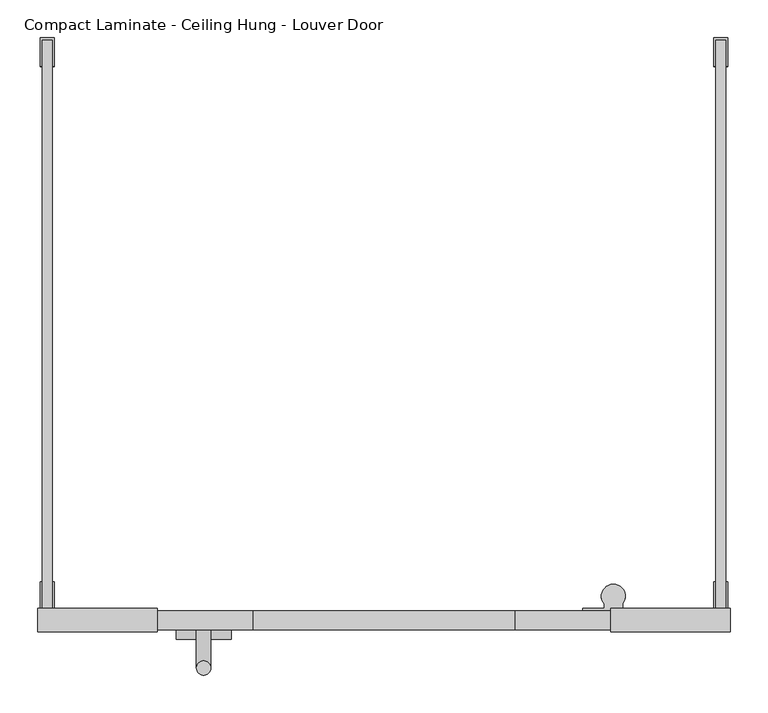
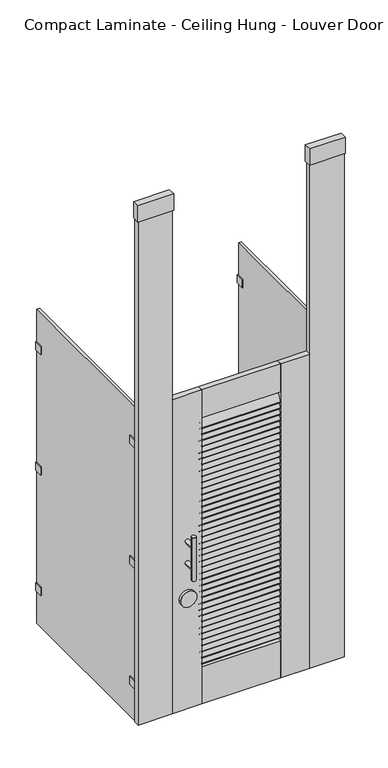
"""IFC4 building model written with IfcOpenShell, lengths in millimetres: proxy geometry, Toilet-Partition_Ironwood-Mfg_Compact-Laminate : Compact Laminate - Ceiling Hung - Louver Door."""

from ifc_helpers import new_model, si_unit, point, frame, frame_2d, origin, place, context, project, spatial, polyline, circle_curve, ellipse_curve, trimmed, segment, composite_curve, outline, extrude, source, transform, mapped, element, save
from ifc_brep_helpers import plane_surface, cylinder_surface, advanced_brep


def compact_laminate_ceiling_hung_louver_door_77dd7178(model_context):
    return source(origin(), model_context, "Body", "SolidModel", [
        extrude(outline(polyline([(542.925, -790.575), (542.925, -758.825), (701.675, -758.825), (701.675, -790.575), (542.925, -790.575)])), frame((0.0, 0.0, 2667.0), z_axis=(0.0, 0.0, 1.0), x_axis=(1.0, 0.0, 0.0)), (0.0, 0.0, 1.0), 76.1999999),
        extrude(outline(polyline([(0.0, 152.4), (25.4, 152.4), (25.4, 0.0), (0.0, 0.0), (0.0, 152.4)])), frame((546.1, -762.0, 304.8), z_axis=(1.181277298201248e-12, 0.0, 1.0), x_axis=(0.0, -1.0, 0.0)), (0.0, 0.0, 1.0), 2362.2),
        extrude(outline(polyline([(-60.325, -790.575), (-219.075, -790.575), (-219.075, -758.825), (-60.325, -758.825), (-60.325, -790.575)])), frame((0.0, 0.0, 2667.0), z_axis=(0.0, 0.0, 1.0), x_axis=(1.0, 0.0, 0.0)), (0.0, 0.0, 1.0), 76.1999999),
        extrude(outline(polyline([(0.0, -152.4), (0.0, 0.0), (25.4, 0.0), (25.4, -152.4), (0.0, -152.4)])), frame((-63.5, -762.0, 304.8), z_axis=(-1.1812772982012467e-12, 0.0, 1.0), x_axis=(0.0, -1.0, 0.0)), (0.0, 0.0, 1.0), 2362.2),
        extrude(outline(composite_curve([segment(polyline([(-762.7746396, 1604.8741298), (-780.7614889, 1567.9956236)]), True, "CONTINUOUS"), segment(trimmed(circle_curve(frame_2d((-783.61516, 1569.387452)), 3.175), [point((-780.7614889, 1567.9956236))], [point((-786.4688311, 1570.7792804))], False, "CARTESIAN"), True, "CONTINUOUS"), segment(polyline([(-786.4688311, 1570.7792804), (-768.4819818, 1607.6577866)]), True, "CONTINUOUS"), segment(trimmed(circle_curve(frame_2d((-765.6283107, 1606.2659582)), 3.175), [point((-768.4819818, 1607.6577866))], [point((-762.7746396, 1604.8741298))], False, "CARTESIAN"), True, "CONTINUOUS")], self_intersect=False)), frame((66.675, 0.0, 0.0), z_axis=(1.0, 0.0, 0.0), x_axis=(0.0, 1.0, 0.0)), (0.0, 0.0, 1.0), 349.25),
        extrude(outline(composite_curve([segment(polyline([(-762.7746396, 1576.5578755), (-780.7614889, 1539.6793692)]), True, "CONTINUOUS"), segment(trimmed(circle_curve(frame_2d((-783.61516, 1541.0711976)), 3.175), [point((-780.7614889, 1539.6793692))], [point((-786.4688311, 1542.463026))], False, "CARTESIAN"), True, "CONTINUOUS"), segment(polyline([(-786.4688311, 1542.463026), (-768.4819818, 1579.3415322)]), True, "CONTINUOUS"), segment(trimmed(circle_curve(frame_2d((-765.6283107, 1577.9497038)), 3.175), [point((-768.4819818, 1579.3415322))], [point((-762.7746396, 1576.5578755))], False, "CARTESIAN"), True, "CONTINUOUS")], self_intersect=False)), frame((66.675, 0.0, 0.0), z_axis=(1.0, 0.0, 0.0), x_axis=(0.0, 1.0, 0.0)), (0.0, 0.0, 1.0), 349.25),
        extrude(outline(composite_curve([segment(polyline([(-762.7746396, 1548.2416211), (-780.7614889, 1511.3631149)]), True, "CONTINUOUS"), segment(trimmed(circle_curve(frame_2d((-783.61516, 1512.7549433)), 3.175), [point((-780.7614889, 1511.3631149))], [point((-786.4688311, 1514.1467716))], False, "CARTESIAN"), True, "CONTINUOUS"), segment(polyline([(-786.4688311, 1514.1467716), (-768.4819818, 1551.0252779)]), True, "CONTINUOUS"), segment(trimmed(circle_curve(frame_2d((-765.6283107, 1549.6334495)), 3.175), [point((-768.4819818, 1551.0252779))], [point((-762.7746396, 1548.2416211))], False, "CARTESIAN"), True, "CONTINUOUS")], self_intersect=False)), frame((66.675, 0.0, 0.0), z_axis=(1.0, 0.0, 0.0), x_axis=(0.0, 1.0, 0.0)), (0.0, 0.0, 1.0), 349.25),
        extrude(outline(composite_curve([segment(polyline([(-762.7746396, 1519.9253667), (-780.7614889, 1483.0468605)]), True, "CONTINUOUS"), segment(trimmed(circle_curve(frame_2d((-783.61516, 1484.4386889)), 3.175), [point((-780.7614889, 1483.0468605))], [point((-786.4688311, 1485.8305173))], False, "CARTESIAN"), True, "CONTINUOUS"), segment(polyline([(-786.4688311, 1485.8305173), (-768.4819818, 1522.7090235)]), True, "CONTINUOUS"), segment(trimmed(circle_curve(frame_2d((-765.6283107, 1521.3171951)), 3.175), [point((-768.4819818, 1522.7090235))], [point((-762.7746396, 1519.9253667))], False, "CARTESIAN"), True, "CONTINUOUS")], self_intersect=False)), frame((66.675, 0.0, 0.0), z_axis=(1.0, 0.0, 0.0), x_axis=(0.0, 1.0, 0.0)), (0.0, 0.0, 1.0), 349.25),
        extrude(outline(composite_curve([segment(polyline([(-762.7746396, 1491.6091124), (-780.7614889, 1454.7306061)]), True, "CONTINUOUS"), segment(trimmed(circle_curve(frame_2d((-783.61516, 1456.1224345)), 3.175), [point((-780.7614889, 1454.7306061))], [point((-786.4688311, 1457.5142629))], False, "CARTESIAN"), True, "CONTINUOUS"), segment(polyline([(-786.4688311, 1457.5142629), (-768.4819818, 1494.3927691)]), True, "CONTINUOUS"), segment(trimmed(circle_curve(frame_2d((-765.6283107, 1493.0009408)), 3.175), [point((-768.4819818, 1494.3927691))], [point((-762.7746396, 1491.6091124))], False, "CARTESIAN"), True, "CONTINUOUS")], self_intersect=False)), frame((66.675, 0.0, 0.0), z_axis=(1.0, 0.0, 0.0), x_axis=(0.0, 1.0, 0.0)), (0.0, 0.0, 1.0), 349.25),
        extrude(outline(composite_curve([segment(polyline([(-762.7746396, 1463.292858), (-780.7614889, 1426.4143518)]), True, "CONTINUOUS"), segment(trimmed(circle_curve(frame_2d((-783.61516, 1427.8061802)), 3.175), [point((-780.7614889, 1426.4143518))], [point((-786.4688311, 1429.1980085))], False, "CARTESIAN"), True, "CONTINUOUS"), segment(polyline([(-786.4688311, 1429.1980085), (-768.4819818, 1466.0765148)]), True, "CONTINUOUS"), segment(trimmed(circle_curve(frame_2d((-765.6283107, 1464.6846864)), 3.175), [point((-768.4819818, 1466.0765148))], [point((-762.7746396, 1463.292858))], False, "CARTESIAN"), True, "CONTINUOUS")], self_intersect=False)), frame((66.675, 0.0, 0.0), z_axis=(1.0, 0.0, 0.0), x_axis=(0.0, 1.0, 0.0)), (0.0, 0.0, 1.0), 349.25),
        extrude(outline(composite_curve([segment(polyline([(-762.7746396, 1434.9766036), (-780.7614889, 1398.0980974)]), True, "CONTINUOUS"), segment(trimmed(circle_curve(frame_2d((-783.61516, 1399.4899258)), 3.175), [point((-780.7614889, 1398.0980974))], [point((-786.4688311, 1400.8817542))], False, "CARTESIAN"), True, "CONTINUOUS"), segment(polyline([(-786.4688311, 1400.8817542), (-768.4819818, 1437.7602604)]), True, "CONTINUOUS"), segment(trimmed(circle_curve(frame_2d((-765.6283107, 1436.368432)), 3.175), [point((-768.4819818, 1437.7602604))], [point((-762.7746396, 1434.9766036))], False, "CARTESIAN"), True, "CONTINUOUS")], self_intersect=False)), frame((66.675, 0.0, 0.0), z_axis=(1.0, 0.0, 0.0), x_axis=(0.0, 1.0, 0.0)), (0.0, 0.0, 1.0), 349.25),
        extrude(outline(composite_curve([segment(polyline([(-762.7746396, 1406.6603493), (-780.7614889, 1369.781843)]), True, "CONTINUOUS"), segment(trimmed(circle_curve(frame_2d((-783.61516, 1371.1736714)), 3.175), [point((-780.7614889, 1369.781843))], [point((-786.4688311, 1372.5654998))], False, "CARTESIAN"), True, "CONTINUOUS"), segment(polyline([(-786.4688311, 1372.5654998), (-768.4819818, 1409.444006)]), True, "CONTINUOUS"), segment(trimmed(circle_curve(frame_2d((-765.6283107, 1408.0521777)), 3.175), [point((-768.4819818, 1409.444006))], [point((-762.7746396, 1406.6603493))], False, "CARTESIAN"), True, "CONTINUOUS")], self_intersect=False)), frame((66.675, 0.0, 0.0), z_axis=(1.0, 0.0, 0.0), x_axis=(0.0, 1.0, 0.0)), (0.0, 0.0, 1.0), 349.25),
        extrude(outline(composite_curve([segment(polyline([(-762.7746396, 1378.3440949), (-780.7614889, 1341.4655887)]), True, "CONTINUOUS"), segment(trimmed(circle_curve(frame_2d((-783.61516, 1342.8574171)), 3.175), [point((-780.7614889, 1341.4655887))], [point((-786.4688311, 1344.2492455))], False, "CARTESIAN"), True, "CONTINUOUS"), segment(polyline([(-786.4688311, 1344.2492455), (-768.4819818, 1381.1277517)]), True, "CONTINUOUS"), segment(trimmed(circle_curve(frame_2d((-765.6283107, 1379.7359233)), 3.175), [point((-768.4819818, 1381.1277517))], [point((-762.7746396, 1378.3440949))], False, "CARTESIAN"), True, "CONTINUOUS")], self_intersect=False)), frame((66.675, 0.0, 0.0), z_axis=(1.0, 0.0, 0.0), x_axis=(0.0, 1.0, 0.0)), (0.0, 0.0, 1.0), 349.25),
        extrude(outline(composite_curve([segment(polyline([(-762.7746396, 1350.0278405), (-780.7614889, 1313.1493343)]), True, "CONTINUOUS"), segment(trimmed(circle_curve(frame_2d((-783.61516, 1314.5411627)), 3.175), [point((-780.7614889, 1313.1493343))], [point((-786.4688311, 1315.9329911))], False, "CARTESIAN"), True, "CONTINUOUS"), segment(polyline([(-786.4688311, 1315.9329911), (-768.4819818, 1352.8114973)]), True, "CONTINUOUS"), segment(trimmed(circle_curve(frame_2d((-765.6283107, 1351.4196689)), 3.175), [point((-768.4819818, 1352.8114973))], [point((-762.7746396, 1350.0278405))], False, "CARTESIAN"), True, "CONTINUOUS")], self_intersect=False)), frame((66.675, 0.0, 0.0), z_axis=(1.0, 0.0, 0.0), x_axis=(0.0, 1.0, 0.0)), (0.0, 0.0, 1.0), 349.25),
        extrude(outline(composite_curve([segment(polyline([(-762.7746396, 1321.7115862), (-780.7614889, 1284.8330799)]), True, "CONTINUOUS"), segment(trimmed(circle_curve(frame_2d((-783.61516, 1286.2249083)), 3.175), [point((-780.7614889, 1284.8330799))], [point((-786.4688311, 1287.6167367))], False, "CARTESIAN"), True, "CONTINUOUS"), segment(polyline([(-786.4688311, 1287.6167367), (-768.4819818, 1324.4952429)]), True, "CONTINUOUS"), segment(trimmed(circle_curve(frame_2d((-765.6283107, 1323.1034146)), 3.175), [point((-768.4819818, 1324.4952429))], [point((-762.7746396, 1321.7115862))], False, "CARTESIAN"), True, "CONTINUOUS")], self_intersect=False)), frame((66.675, 0.0, 0.0), z_axis=(1.0, 0.0, 0.0), x_axis=(0.0, 1.0, 0.0)), (0.0, 0.0, 1.0), 349.25),
        extrude(outline(composite_curve([segment(polyline([(-762.7746396, 1293.3953318), (-780.7614889, 1256.5168256)]), True, "CONTINUOUS"), segment(trimmed(circle_curve(frame_2d((-783.61516, 1257.908654)), 3.175), [point((-780.7614889, 1256.5168256))], [point((-786.4688311, 1259.3004824))], False, "CARTESIAN"), True, "CONTINUOUS"), segment(polyline([(-786.4688311, 1259.3004824), (-768.4819818, 1296.1789886)]), True, "CONTINUOUS"), segment(trimmed(circle_curve(frame_2d((-765.6283107, 1294.7871602)), 3.175), [point((-768.4819818, 1296.1789886))], [point((-762.7746396, 1293.3953318))], False, "CARTESIAN"), True, "CONTINUOUS")], self_intersect=False)), frame((66.675, 0.0, 0.0), z_axis=(1.0, 0.0, 0.0), x_axis=(0.0, 1.0, 0.0)), (0.0, 0.0, 1.0), 349.25),
        extrude(outline(composite_curve([segment(polyline([(-762.7746396, 1265.0790774), (-780.7614889, 1228.2005712)]), True, "CONTINUOUS"), segment(trimmed(circle_curve(frame_2d((-783.61516, 1229.5923996)), 3.175), [point((-780.7614889, 1228.2005712))], [point((-786.4688311, 1230.984228))], False, "CARTESIAN"), True, "CONTINUOUS"), segment(polyline([(-786.4688311, 1230.984228), (-768.4819818, 1267.8627342)]), True, "CONTINUOUS"), segment(trimmed(circle_curve(frame_2d((-765.6283107, 1266.4709058)), 3.175), [point((-768.4819818, 1267.8627342))], [point((-762.7746396, 1265.0790774))], False, "CARTESIAN"), True, "CONTINUOUS")], self_intersect=False)), frame((66.675, 0.0, 0.0), z_axis=(1.0, 0.0, 0.0), x_axis=(0.0, 1.0, 0.0)), (0.0, 0.0, 1.0), 349.25),
        extrude(outline(composite_curve([segment(polyline([(-762.7746396, 1236.7628231), (-780.7614889, 1199.8843168)]), True, "CONTINUOUS"), segment(trimmed(circle_curve(frame_2d((-783.61516, 1201.2761452)), 3.175), [point((-780.7614889, 1199.8843168))], [point((-786.4688311, 1202.6679736))], False, "CARTESIAN"), True, "CONTINUOUS"), segment(polyline([(-786.4688311, 1202.6679736), (-768.4819818, 1239.5464799)]), True, "CONTINUOUS"), segment(trimmed(circle_curve(frame_2d((-765.6283107, 1238.1546515)), 3.175), [point((-768.4819818, 1239.5464799))], [point((-762.7746396, 1236.7628231))], False, "CARTESIAN"), True, "CONTINUOUS")], self_intersect=False)), frame((66.675, 0.0, 0.0), z_axis=(1.0, 0.0, 0.0), x_axis=(0.0, 1.0, 0.0)), (0.0, 0.0, 1.0), 349.25),
        extrude(outline(composite_curve([segment(polyline([(-762.7746396, 1208.4465687), (-780.7614889, 1171.5680625)]), True, "CONTINUOUS"), segment(trimmed(circle_curve(frame_2d((-783.61516, 1172.9598909)), 3.175), [point((-780.7614889, 1171.5680625))], [point((-786.4688311, 1174.3517193))], False, "CARTESIAN"), True, "CONTINUOUS"), segment(polyline([(-786.4688311, 1174.3517193), (-768.4819818, 1211.2302255)]), True, "CONTINUOUS"), segment(trimmed(circle_curve(frame_2d((-765.6283107, 1209.8383971)), 3.175), [point((-768.4819818, 1211.2302255))], [point((-762.7746396, 1208.4465687))], False, "CARTESIAN"), True, "CONTINUOUS")], self_intersect=False)), frame((66.675, 0.0, 0.0), z_axis=(1.0, 0.0, 0.0), x_axis=(0.0, 1.0, 0.0)), (0.0, 0.0, 1.0), 349.25),
        extrude(outline(composite_curve([segment(polyline([(-762.7746396, 1180.1303143), (-780.7614889, 1143.2518081)]), True, "CONTINUOUS"), segment(trimmed(circle_curve(frame_2d((-783.61516, 1144.6436365)), 3.175), [point((-780.7614889, 1143.2518081))], [point((-786.4688311, 1146.0354649))], False, "CARTESIAN"), True, "CONTINUOUS"), segment(polyline([(-786.4688311, 1146.0354649), (-768.4819818, 1182.9139711)]), True, "CONTINUOUS"), segment(trimmed(circle_curve(frame_2d((-765.6283107, 1181.5221427)), 3.175), [point((-768.4819818, 1182.9139711))], [point((-762.7746396, 1180.1303143))], False, "CARTESIAN"), True, "CONTINUOUS")], self_intersect=False)), frame((66.675, 0.0, 0.0), z_axis=(1.0, 0.0, 0.0), x_axis=(0.0, 1.0, 0.0)), (0.0, 0.0, 1.0), 349.25),
        extrude(outline(composite_curve([segment(polyline([(-762.7746396, 1151.81406), (-780.7614889, 1114.9355537)]), True, "CONTINUOUS"), segment(trimmed(circle_curve(frame_2d((-783.61516, 1116.3273821)), 3.175), [point((-780.7614889, 1114.9355537))], [point((-786.4688311, 1117.7192105))], False, "CARTESIAN"), True, "CONTINUOUS"), segment(polyline([(-786.4688311, 1117.7192105), (-768.4819818, 1154.5977168)]), True, "CONTINUOUS"), segment(trimmed(circle_curve(frame_2d((-765.6283107, 1153.2058884)), 3.175), [point((-768.4819818, 1154.5977168))], [point((-762.7746396, 1151.81406))], False, "CARTESIAN"), True, "CONTINUOUS")], self_intersect=False)), frame((66.675, 0.0, 0.0), z_axis=(1.0, 0.0, 0.0), x_axis=(0.0, 1.0, 0.0)), (0.0, 0.0, 1.0), 349.25),
        extrude(outline(composite_curve([segment(polyline([(-762.7746396, 1123.4978056), (-780.7614889, 1086.6192994)]), True, "CONTINUOUS"), segment(trimmed(circle_curve(frame_2d((-783.61516, 1088.0111278)), 3.175), [point((-780.7614889, 1086.6192994))], [point((-786.4688311, 1089.4029562))], False, "CARTESIAN"), True, "CONTINUOUS"), segment(polyline([(-786.4688311, 1089.4029562), (-768.4819818, 1126.2814624)]), True, "CONTINUOUS"), segment(trimmed(circle_curve(frame_2d((-765.6283107, 1124.889634)), 3.175), [point((-768.4819818, 1126.2814624))], [point((-762.7746396, 1123.4978056))], False, "CARTESIAN"), True, "CONTINUOUS")], self_intersect=False)), frame((66.675, 0.0, 0.0), z_axis=(1.0, 0.0, 0.0), x_axis=(0.0, 1.0, 0.0)), (0.0, 0.0, 1.0), 349.25),
        extrude(outline(composite_curve([segment(polyline([(-762.7746396, 1095.1815512), (-780.7614889, 1058.303045)]), True, "CONTINUOUS"), segment(trimmed(circle_curve(frame_2d((-783.61516, 1059.6948734)), 3.175), [point((-780.7614889, 1058.303045))], [point((-786.4688311, 1061.0867018))], False, "CARTESIAN"), True, "CONTINUOUS"), segment(polyline([(-786.4688311, 1061.0867018), (-768.4819818, 1097.965208)]), True, "CONTINUOUS"), segment(trimmed(circle_curve(frame_2d((-765.6283107, 1096.5733796)), 3.175), [point((-768.4819818, 1097.965208))], [point((-762.7746396, 1095.1815512))], False, "CARTESIAN"), True, "CONTINUOUS")], self_intersect=False)), frame((66.675, 0.0, 0.0), z_axis=(1.0, 0.0, 0.0), x_axis=(0.0, 1.0, 0.0)), (0.0, 0.0, 1.0), 349.25),
        extrude(outline(composite_curve([segment(polyline([(-762.7746396, 1066.8652969), (-780.7614889, 1029.9867907)]), True, "CONTINUOUS"), segment(trimmed(circle_curve(frame_2d((-783.61516, 1031.378619)), 3.175), [point((-780.7614889, 1029.9867907))], [point((-786.4688311, 1032.7704474))], False, "CARTESIAN"), True, "CONTINUOUS"), segment(polyline([(-786.4688311, 1032.7704474), (-768.4819818, 1069.6489537)]), True, "CONTINUOUS"), segment(trimmed(circle_curve(frame_2d((-765.6283107, 1068.2571253)), 3.175), [point((-768.4819818, 1069.6489537))], [point((-762.7746396, 1066.8652969))], False, "CARTESIAN"), True, "CONTINUOUS")], self_intersect=False)), frame((66.675, 0.0, 0.0), z_axis=(1.0, 0.0, 0.0), x_axis=(0.0, 1.0, 0.0)), (0.0, 0.0, 1.0), 349.25),
        extrude(outline(composite_curve([segment(polyline([(-762.7746396, 1038.5490425), (-780.7614889, 1001.6705363)]), True, "CONTINUOUS"), segment(trimmed(circle_curve(frame_2d((-783.61516, 1003.0623647)), 3.175), [point((-780.7614889, 1001.6705363))], [point((-786.4688311, 1004.4541931))], False, "CARTESIAN"), True, "CONTINUOUS"), segment(polyline([(-786.4688311, 1004.4541931), (-768.4819818, 1041.3326993)]), True, "CONTINUOUS"), segment(trimmed(circle_curve(frame_2d((-765.6283107, 1039.9408709)), 3.175), [point((-768.4819818, 1041.3326993))], [point((-762.7746396, 1038.5490425))], False, "CARTESIAN"), True, "CONTINUOUS")], self_intersect=False)), frame((66.675, 0.0, 0.0), z_axis=(1.0, 0.0, 0.0), x_axis=(0.0, 1.0, 0.0)), (0.0, 0.0, 1.0), 349.25),
        extrude(outline(composite_curve([segment(polyline([(-762.7746396, 1010.2327881), (-780.7614889, 973.3542819)]), True, "CONTINUOUS"), segment(trimmed(circle_curve(frame_2d((-783.61516, 974.7461103)), 3.175), [point((-780.7614889, 973.3542819))], [point((-786.4688311, 976.1379387))], False, "CARTESIAN"), True, "CONTINUOUS"), segment(polyline([(-786.4688311, 976.1379387), (-768.4819818, 1013.0164449)]), True, "CONTINUOUS"), segment(trimmed(circle_curve(frame_2d((-765.6283107, 1011.6246165)), 3.175), [point((-768.4819818, 1013.0164449))], [point((-762.7746396, 1010.2327881))], False, "CARTESIAN"), True, "CONTINUOUS")], self_intersect=False)), frame((66.675, 0.0, 0.0), z_axis=(1.0, 0.0, 0.0), x_axis=(0.0, 1.0, 0.0)), (0.0, 0.0, 1.0), 349.25),
        extrude(outline(composite_curve([segment(polyline([(-762.7746396, 981.9165338), (-780.7614889, 945.0380276)]), True, "CONTINUOUS"), segment(trimmed(circle_curve(frame_2d((-783.61516, 946.4298559)), 3.175), [point((-780.7614889, 945.0380276))], [point((-786.4688311, 947.8216843))], False, "CARTESIAN"), True, "CONTINUOUS"), segment(polyline([(-786.4688311, 947.8216843), (-768.4819818, 984.7001906)]), True, "CONTINUOUS"), segment(trimmed(circle_curve(frame_2d((-765.6283107, 983.3083622)), 3.175), [point((-768.4819818, 984.7001906))], [point((-762.7746396, 981.9165338))], False, "CARTESIAN"), True, "CONTINUOUS")], self_intersect=False)), frame((66.675, 0.0, 0.0), z_axis=(1.0, 0.0, 0.0), x_axis=(0.0, 1.0, 0.0)), (0.0, 0.0, 1.0), 349.25),
        extrude(outline(composite_curve([segment(polyline([(-762.7746396, 953.6002794), (-780.7614889, 916.7217732)]), True, "CONTINUOUS"), segment(trimmed(circle_curve(frame_2d((-783.61516, 918.1136016)), 3.175), [point((-780.7614889, 916.7217732))], [point((-786.4688311, 919.50543))], False, "CARTESIAN"), True, "CONTINUOUS"), segment(polyline([(-786.4688311, 919.50543), (-768.4819818, 956.3839362)]), True, "CONTINUOUS"), segment(trimmed(circle_curve(frame_2d((-765.6283107, 954.9921078)), 3.175), [point((-768.4819818, 956.3839362))], [point((-762.7746396, 953.6002794))], False, "CARTESIAN"), True, "CONTINUOUS")], self_intersect=False)), frame((66.675, 0.0, 0.0), z_axis=(1.0, 0.0, 0.0), x_axis=(0.0, 1.0, 0.0)), (0.0, 0.0, 1.0), 349.25),
        extrude(outline(composite_curve([segment(polyline([(-762.7746396, 925.284025), (-780.7614889, 888.4055188)]), True, "CONTINUOUS"), segment(trimmed(circle_curve(frame_2d((-783.61516, 889.7973472)), 3.175), [point((-780.7614889, 888.4055188))], [point((-786.4688311, 891.1891756))], False, "CARTESIAN"), True, "CONTINUOUS"), segment(polyline([(-786.4688311, 891.1891756), (-768.4819818, 928.0676818)]), True, "CONTINUOUS"), segment(trimmed(circle_curve(frame_2d((-765.6283107, 926.6758534)), 3.175), [point((-768.4819818, 928.0676818))], [point((-762.7746396, 925.284025))], False, "CARTESIAN"), True, "CONTINUOUS")], self_intersect=False)), frame((66.675, 0.0, 0.0), z_axis=(1.0, 0.0, 0.0), x_axis=(0.0, 1.0, 0.0)), (0.0, 0.0, 1.0), 349.25),
        extrude(outline(composite_curve([segment(polyline([(-762.7746396, 896.9677707), (-780.7614889, 860.0892645)]), True, "CONTINUOUS"), segment(trimmed(circle_curve(frame_2d((-783.61516, 861.4810928)), 3.175), [point((-780.7614889, 860.0892645))], [point((-786.4688311, 862.8729212))], False, "CARTESIAN"), True, "CONTINUOUS"), segment(polyline([(-786.4688311, 862.8729212), (-768.4819818, 899.7514275)]), True, "CONTINUOUS"), segment(trimmed(circle_curve(frame_2d((-765.6283107, 898.3595991)), 3.175), [point((-768.4819818, 899.7514275))], [point((-762.7746396, 896.9677707))], False, "CARTESIAN"), True, "CONTINUOUS")], self_intersect=False)), frame((66.675, 0.0, 0.0), z_axis=(1.0, 0.0, 0.0), x_axis=(0.0, 1.0, 0.0)), (0.0, 0.0, 1.0), 349.25),
        extrude(outline(composite_curve([segment(polyline([(-762.7746396, 868.6515163), (-780.7614889, 831.7730101)]), True, "CONTINUOUS"), segment(trimmed(circle_curve(frame_2d((-783.61516, 833.1648385)), 3.175), [point((-780.7614889, 831.7730101))], [point((-786.4688311, 834.5566669))], False, "CARTESIAN"), True, "CONTINUOUS"), segment(polyline([(-786.4688311, 834.5566669), (-768.4819818, 871.4351731)]), True, "CONTINUOUS"), segment(trimmed(circle_curve(frame_2d((-765.6283107, 870.0433447)), 3.175), [point((-768.4819818, 871.4351731))], [point((-762.7746396, 868.6515163))], False, "CARTESIAN"), True, "CONTINUOUS")], self_intersect=False)), frame((66.675, 0.0, 0.0), z_axis=(1.0, 0.0, 0.0), x_axis=(0.0, 1.0, 0.0)), (0.0, 0.0, 1.0), 349.25),
        extrude(outline(composite_curve([segment(polyline([(-762.7746396, 840.335262), (-780.7614889, 803.4567557)]), True, "CONTINUOUS"), segment(trimmed(circle_curve(frame_2d((-783.61516, 804.8485841)), 3.175), [point((-780.7614889, 803.4567557))], [point((-786.4688311, 806.2404125))], False, "CARTESIAN"), True, "CONTINUOUS"), segment(polyline([(-786.4688311, 806.2404125), (-768.4819818, 843.1189187)]), True, "CONTINUOUS"), segment(trimmed(circle_curve(frame_2d((-765.6283107, 841.7270903)), 3.175), [point((-768.4819818, 843.1189187))], [point((-762.7746396, 840.335262))], False, "CARTESIAN"), True, "CONTINUOUS")], self_intersect=False)), frame((66.675, 0.0, 0.0), z_axis=(1.0, 0.0, 0.0), x_axis=(0.0, 1.0, 0.0)), (0.0, 0.0, 1.0), 349.25),
        extrude(outline(composite_curve([segment(polyline([(-762.7746396, 812.0190076), (-780.7614889, 775.1405014)]), True, "CONTINUOUS"), segment(trimmed(circle_curve(frame_2d((-783.61516, 776.5323298)), 3.175), [point((-780.7614889, 775.1405014))], [point((-786.4688311, 777.9241581))], False, "CARTESIAN"), True, "CONTINUOUS"), segment(polyline([(-786.4688311, 777.9241581), (-768.4819818, 814.8026644)]), True, "CONTINUOUS"), segment(trimmed(circle_curve(frame_2d((-765.6283107, 813.410836)), 3.175), [point((-768.4819818, 814.8026644))], [point((-762.7746396, 812.0190076))], False, "CARTESIAN"), True, "CONTINUOUS")], self_intersect=False)), frame((66.675, 0.0, 0.0), z_axis=(1.0, 0.0, 0.0), x_axis=(0.0, 1.0, 0.0)), (0.0, 0.0, 1.0), 349.25),
        extrude(outline(composite_curve([segment(polyline([(-762.7746396, 783.7027532), (-780.7614889, 746.824247)]), True, "CONTINUOUS"), segment(trimmed(circle_curve(frame_2d((-783.61516, 748.2160754)), 3.175), [point((-780.7614889, 746.824247))], [point((-786.4688311, 749.6079038))], False, "CARTESIAN"), True, "CONTINUOUS"), segment(polyline([(-786.4688311, 749.6079038), (-768.4819818, 786.48641)]), True, "CONTINUOUS"), segment(trimmed(circle_curve(frame_2d((-765.6283107, 785.0945816)), 3.175), [point((-768.4819818, 786.48641))], [point((-762.7746396, 783.7027532))], False, "CARTESIAN"), True, "CONTINUOUS")], self_intersect=False)), frame((66.675, 0.0, 0.0), z_axis=(1.0, 0.0, 0.0), x_axis=(0.0, 1.0, 0.0)), (0.0, 0.0, 1.0), 349.25),
        extrude(outline(composite_curve([segment(polyline([(-762.7746396, 755.3864989), (-780.7614889, 718.5079926)]), True, "CONTINUOUS"), segment(trimmed(circle_curve(frame_2d((-783.61516, 719.899821)), 3.175), [point((-780.7614889, 718.5079926))], [point((-786.4688311, 721.2916494))], False, "CARTESIAN"), True, "CONTINUOUS"), segment(polyline([(-786.4688311, 721.2916494), (-768.4819818, 758.1701556)]), True, "CONTINUOUS"), segment(trimmed(circle_curve(frame_2d((-765.6283107, 756.7783272)), 3.175), [point((-768.4819818, 758.1701556))], [point((-762.7746396, 755.3864989))], False, "CARTESIAN"), True, "CONTINUOUS")], self_intersect=False)), frame((66.675, 0.0, 0.0), z_axis=(1.0, 0.0, 0.0), x_axis=(0.0, 1.0, 0.0)), (0.0, 0.0, 1.0), 349.25),
        extrude(outline(composite_curve([segment(polyline([(-762.7746396, 727.0702445), (-780.7614889, 690.1917383)]), True, "CONTINUOUS"), segment(trimmed(circle_curve(frame_2d((-783.61516, 691.5835667)), 3.175), [point((-780.7614889, 690.1917383))], [point((-786.4688311, 692.975395))], False, "CARTESIAN"), True, "CONTINUOUS"), segment(polyline([(-786.4688311, 692.975395), (-768.4819818, 729.8539013)]), True, "CONTINUOUS"), segment(trimmed(circle_curve(frame_2d((-765.6283107, 728.4620729)), 3.175), [point((-768.4819818, 729.8539013))], [point((-762.7746396, 727.0702445))], False, "CARTESIAN"), True, "CONTINUOUS")], self_intersect=False)), frame((66.675, 0.0, 0.0), z_axis=(1.0, 0.0, 0.0), x_axis=(0.0, 1.0, 0.0)), (0.0, 0.0, 1.0), 349.25),
        extrude(outline(composite_curve([segment(polyline([(-762.7746396, 698.7539901), (-780.7614889, 661.8754839)]), True, "CONTINUOUS"), segment(trimmed(circle_curve(frame_2d((-783.61516, 663.2673123)), 3.175), [point((-780.7614889, 661.8754839))], [point((-786.4688311, 664.6591407))], False, "CARTESIAN"), True, "CONTINUOUS"), segment(polyline([(-786.4688311, 664.6591407), (-768.4819818, 701.5376469)]), True, "CONTINUOUS"), segment(trimmed(circle_curve(frame_2d((-765.6283107, 700.1458185)), 3.175), [point((-768.4819818, 701.5376469))], [point((-762.7746396, 698.7539901))], False, "CARTESIAN"), True, "CONTINUOUS")], self_intersect=False)), frame((66.675, 0.0, 0.0), z_axis=(1.0, 0.0, 0.0), x_axis=(0.0, 1.0, 0.0)), (0.0, 0.0, 1.0), 349.25),
        extrude(outline(composite_curve([segment(polyline([(-762.7746396, 670.4377358), (-780.7614889, 633.5592295)]), True, "CONTINUOUS"), segment(trimmed(circle_curve(frame_2d((-783.61516, 634.9510579)), 3.175), [point((-780.7614889, 633.5592295))], [point((-786.4688311, 636.3428863))], False, "CARTESIAN"), True, "CONTINUOUS"), segment(polyline([(-786.4688311, 636.3428863), (-768.4819818, 673.2213925)]), True, "CONTINUOUS"), segment(trimmed(circle_curve(frame_2d((-765.6283107, 671.8295642)), 3.175), [point((-768.4819818, 673.2213925))], [point((-762.7746396, 670.4377358))], False, "CARTESIAN"), True, "CONTINUOUS")], self_intersect=False)), frame((66.675, 0.0, 0.0), z_axis=(1.0, 0.0, 0.0), x_axis=(0.0, 1.0, 0.0)), (0.0, 0.0, 1.0), 349.25),
        extrude(outline(composite_curve([segment(polyline([(-762.7746396, 642.1214814), (-780.7614889, 605.2429752)]), True, "CONTINUOUS"), segment(trimmed(circle_curve(frame_2d((-783.61516, 606.6348036)), 3.175), [point((-780.7614889, 605.2429752))], [point((-786.4688311, 608.026632))], False, "CARTESIAN"), True, "CONTINUOUS"), segment(polyline([(-786.4688311, 608.026632), (-768.4819818, 644.9051382)]), True, "CONTINUOUS"), segment(trimmed(circle_curve(frame_2d((-765.6283107, 643.5133098)), 3.175), [point((-768.4819818, 644.9051382))], [point((-762.7746396, 642.1214814))], False, "CARTESIAN"), True, "CONTINUOUS")], self_intersect=False)), frame((66.675, 0.0, 0.0), z_axis=(1.0, 0.0, 0.0), x_axis=(0.0, 1.0, 0.0)), (0.0, 0.0, 1.0), 349.25),
        extrude(outline(composite_curve([segment(polyline([(-762.7746396, 613.805227), (-780.7614889, 576.9267208)]), True, "CONTINUOUS"), segment(trimmed(circle_curve(frame_2d((-783.61516, 578.3185492)), 3.175), [point((-780.7614889, 576.9267208))], [point((-786.4688311, 579.7103776))], False, "CARTESIAN"), True, "CONTINUOUS"), segment(polyline([(-786.4688311, 579.7103776), (-768.4819818, 616.5888838)]), True, "CONTINUOUS"), segment(trimmed(circle_curve(frame_2d((-765.6283107, 615.1970554)), 3.175), [point((-768.4819818, 616.5888838))], [point((-762.7746396, 613.805227))], False, "CARTESIAN"), True, "CONTINUOUS")], self_intersect=False)), frame((66.675, 0.0, 0.0), z_axis=(1.0, 0.0, 0.0), x_axis=(0.0, 1.0, 0.0)), (0.0, 0.0, 1.0), 349.25),
        extrude(outline(composite_curve([segment(polyline([(-762.7746396, 585.4889727), (-780.7614889, 548.6104664)]), True, "CONTINUOUS"), segment(trimmed(circle_curve(frame_2d((-783.61516, 550.0022948)), 3.175), [point((-780.7614889, 548.6104664))], [point((-786.4688311, 551.3941232))], False, "CARTESIAN"), True, "CONTINUOUS"), segment(polyline([(-786.4688311, 551.3941232), (-768.4819818, 588.2726294)]), True, "CONTINUOUS"), segment(trimmed(circle_curve(frame_2d((-765.6283107, 586.8808011)), 3.175), [point((-768.4819818, 588.2726294))], [point((-762.7746396, 585.4889727))], False, "CARTESIAN"), True, "CONTINUOUS")], self_intersect=False)), frame((66.675, 0.0, 0.0), z_axis=(1.0, 0.0, 0.0), x_axis=(0.0, 1.0, 0.0)), (0.0, 0.0, 1.0), 349.25),
        extrude(outline(composite_curve([segment(polyline([(-762.7746396, 557.1727183), (-780.7614889, 520.2942121)]), True, "CONTINUOUS"), segment(trimmed(circle_curve(frame_2d((-783.61516, 521.6860405)), 3.175), [point((-780.7614889, 520.2942121))], [point((-786.4688311, 523.0778689))], False, "CARTESIAN"), True, "CONTINUOUS"), segment(polyline([(-786.4688311, 523.0778689), (-768.4819818, 559.9563751)]), True, "CONTINUOUS"), segment(trimmed(circle_curve(frame_2d((-765.6283107, 558.5645467)), 3.175), [point((-768.4819818, 559.9563751))], [point((-762.7746396, 557.1727183))], False, "CARTESIAN"), True, "CONTINUOUS")], self_intersect=False)), frame((66.675, 0.0, 0.0), z_axis=(1.0, 0.0, 0.0), x_axis=(0.0, 1.0, 0.0)), (0.0, 0.0, 1.0), 349.25),
        extrude(outline(composite_curve([segment(polyline([(-762.7746396, 1633.1903842), (-780.7614889, 1596.311878)]), True, "CONTINUOUS"), segment(trimmed(circle_curve(frame_2d((-783.61516, 1597.7037064)), 3.175), [point((-780.7614889, 1596.311878))], [point((-786.4688311, 1599.0955347))], False, "CARTESIAN"), True, "CONTINUOUS"), segment(polyline([(-786.4688311, 1599.0955347), (-768.4819818, 1635.974041)]), True, "CONTINUOUS"), segment(trimmed(circle_curve(frame_2d((-765.6283107, 1634.5822126)), 3.175), [point((-768.4819818, 1635.974041))], [point((-762.7746396, 1633.1903842))], False, "CARTESIAN"), True, "CONTINUOUS")], self_intersect=False)), frame((66.675, 0.0, 0.0), z_axis=(1.0, 0.0, 0.0), x_axis=(0.0, 1.0, 0.0)), (0.0, 0.0, 1.0), 349.25),
        extrude(outline(composite_curve([segment(polyline([(-762.7746396, 528.8564639), (-780.7614889, 491.9779577)]), True, "CONTINUOUS"), segment(trimmed(circle_curve(frame_2d((-783.61516, 493.3697861)), 3.175), [point((-780.7614889, 491.9779577))], [point((-786.4688311, 494.7616145))], False, "CARTESIAN"), True, "CONTINUOUS"), segment(polyline([(-786.4688311, 494.7616145), (-768.4819818, 531.6401207)]), True, "CONTINUOUS"), segment(trimmed(circle_curve(frame_2d((-765.6283107, 530.2482923)), 3.175), [point((-768.4819818, 531.6401207))], [point((-762.7746396, 528.8564639))], False, "CARTESIAN"), True, "CONTINUOUS")], self_intersect=False)), frame((66.675, 0.0, 0.0), z_axis=(1.0, 0.0, 0.0), x_axis=(0.0, 1.0, 0.0)), (0.0, 0.0, 1.0), 349.25),
        extrude(outline(polyline([(66.675, -762.0), (66.675, -787.4), (-63.5, -787.4), (-63.5, -762.0), (66.675, -762.0)])), frame((0.0, 0.0, 304.8), z_axis=(0.0, 0.0, 1.0), x_axis=(1.0, 0.0, 0.0)), (0.0, 0.0, 1.0), 1473.2),
        extrude(outline(polyline([(415.925, -762.0), (546.1, -762.0), (546.1, -787.4), (415.925, -787.4), (415.925, -762.0)])), frame((0.0, 0.0, 304.8), z_axis=(0.0, 0.0, 1.0), x_axis=(1.0, 0.0, 0.0)), (0.0, 0.0, 1.0), 1473.2),
        extrude(outline(polyline([(415.925, -762.0), (415.925, -787.4), (66.675, -787.4), (66.675, -762.0), (415.925, -762.0)])), frame((0.0, 0.0, 1647.825), z_axis=(0.0, 0.0, 1.0), x_axis=(1.0, 0.0, 0.0)), (0.0, 0.0, 1.0), 130.175),
        extrude(outline(polyline([(415.925, -762.0), (415.925, -787.4), (66.675, -787.4), (66.675, -762.0), (415.925, -762.0)])), frame((0.0, 0.0, 304.8), z_axis=(0.0, 0.0, 1.0), x_axis=(1.0, 0.0, 0.0)), (0.0, 0.0, 1.0), 174.625),
        extrude(outline(composite_curve([segment(trimmed(circle_curve(frame_2d((827.0875, 1.5875)), 36.5125), [point((827.0875, -34.925))], [point((827.0875, 38.1))], False, "CARTESIAN"), True, "CONTINUOUS"), segment(trimmed(circle_curve(frame_2d((827.0875, 1.5875)), 36.5125), [point((827.0875, 38.1))], [point((827.0875, -34.925))], False, "CARTESIAN"), True, "CONTINUOUS")], self_intersect=False)), frame((0.0, -800.1, 0.0), z_axis=(0.0, 1.0, 0.0), x_axis=(0.0, 0.0, 1.0)), (0.0, 0.0, 1.0), 12.7),
        advanced_brep(
        [(-7.9375, -787.4, 1092.2), (11.1125, -787.4, 1092.2), (-7.9375, -787.4, 990.6), (11.1125, -787.4, 990.6), (11.1125, -838.2, 1092.2), (-7.9375, -838.2, 1092.2), (11.1125, -838.2, 990.6), (-7.9375, -838.2, 990.6), (-7.9375, -838.2, 1143.0), (11.1125, -838.2, 1143.0), (-7.9375, -838.2, 939.8), (11.1125, -838.2, 939.8)],
        [
            (0, 1, circle_curve(frame((1.5875, -787.4, 1092.2), z_axis=(0.0, 1.0, 0.0), x_axis=(1.0, 0.0, 0.0)), 9.525)),
            (1, 0, circle_curve(frame((1.5875, -787.4, 1092.2), z_axis=(0.0, 1.0, 0.0), x_axis=(1.0, 0.0, 0.0)), 9.525)),
            (2, 3, circle_curve(frame((1.5875, -787.4, 990.6), z_axis=(0.0, 1.0, 0.0), x_axis=(1.0, 0.0, 0.0)), 9.525)),
            (3, 2, circle_curve(frame((1.5875, -787.4, 990.6), z_axis=(0.0, 1.0, 0.0), x_axis=(1.0, 0.0, 0.0)), 9.525)),
            (1, 4),
            (4, 5, ellipse_curve(frame((1.5875, -838.2, 1092.2), z_axis=(0.0, 0.7071067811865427, 0.7071067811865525), x_axis=(0.0, -0.7071067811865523, 0.7071067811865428)), 13.4703842, 9.525)),
            (5, 0),
            (5, 4, ellipse_curve(frame((1.5875, -838.2, 1092.2), z_axis=(0.0, 0.7071067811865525, -0.7071067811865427), x_axis=(0.0, -0.7071067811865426, -0.7071067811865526)), 13.4703842, 9.525)),
            (3, 6),
            (6, 7, ellipse_curve(frame((1.5875, -838.2, 990.6), z_axis=(0.0, 0.7071067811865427, 0.7071067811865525), x_axis=(0.0, -0.7071067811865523, 0.7071067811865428)), 13.4703842, 9.525)),
            (7, 2),
            (7, 6, ellipse_curve(frame((1.5875, -838.2, 990.6), z_axis=(0.0, 0.7071067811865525, -0.7071067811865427), x_axis=(0.0, -0.7071067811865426, -0.7071067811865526)), 13.4703842, 9.525)),
            (8, 9, circle_curve(frame((1.5875, -838.2, 1143.0), z_axis=(0.0, 0.0, 1.0), x_axis=(1.0, 0.0, 0.0)), 9.525)),
            (9, 8, circle_curve(frame((1.5875, -838.2, 1143.0), z_axis=(0.0, 0.0, 1.0), x_axis=(1.0, 0.0, 0.0)), 9.525)),
            (10, 11, circle_curve(frame((1.5875, -838.2, 939.8), z_axis=(0.0, 0.0, -1.0), x_axis=(1.0, 0.0, 0.0)), 9.525)),
            (11, 10, circle_curve(frame((1.5875, -838.2, 939.8), z_axis=(0.0, 0.0, -1.0), x_axis=(1.0, 0.0, 0.0)), 9.525)),
            (8, 5),
            (5, 7),
            (7, 10),
            (11, 6),
            (6, 4),
            (4, 9),
        ],
        [
            plane_surface(frame((11.1125, -787.4, 1092.2), z_axis=(0.0, 1.0, 0.0), x_axis=(0.0, 0.0, -1.0))),
            cylinder_surface(frame((1.5875, -787.4, 1092.2), z_axis=(0.0, -1.0, 0.0), x_axis=(1.0, 0.0, 0.0)), 9.525),
            cylinder_surface(frame((1.5875, -787.4, 990.6), z_axis=(0.0, -1.0, 0.0), x_axis=(1.0, 0.0, 0.0)), 9.525),
            plane_surface(frame((11.1125, -838.2, 1143.0), z_axis=(0.0, 0.0, 1.0), x_axis=(0.0, 1.0, 0.0))),
            plane_surface(frame((11.1125, -838.2, 939.8), z_axis=(0.0, 0.0, -1.0), x_axis=(0.0, -1.0, 0.0))),
            cylinder_surface(frame((1.5875, -838.2, 939.8), z_axis=(0.0, 0.0, 1.0), x_axis=(1.0, 0.0, 0.0)), 9.525),
        ],
        [
            (0, [[1, 2]]),
            (0, [[3, 4]]),
            (1, [[-2, 5, 6, 7]]),
            (1, [[-1, -7, 8, -5]]),
            (2, [[-4, 9, 10, 11]]),
            (2, [[-3, -11, 12, -9]]),
            (3, [[13, 14]]),
            (4, [[15, 16]]),
            (5, [[-13, 17, 18, 19, -16, 20, 21, 22]]),
            (5, [[-14, -22, -8, -17]]),
            (5, [[-15, -19, -10, -20]]),
            (5, [[-18, -6, -21, -12]]),
        ],
    ),
        extrude(outline(composite_curve([segment(polyline([(581.3737081, -762.0), (505.1737081, -762.0), (505.1737081, -758.825), (533.7487081, -758.825), (533.7487081, -752.9581331)]), True, "CONTINUOUS"), segment(trimmed(circle_curve(frame_2d((546.1, -742.8902139)), 15.9347861), [point((533.7487081, -752.9581331))], [point((558.4512919, -752.9581331))], False, "CARTESIAN"), True, "CONTINUOUS"), segment(polyline([(558.4512919, -752.9581331), (558.4512919, -758.825), (581.3737081, -758.825), (581.3737081, -762.0)]), True, "CONTINUOUS")], self_intersect=False)), frame((0.0, 0.0, 1574.8), z_axis=(0.0, 0.0, 1.0), x_axis=(1.0, 0.0, 0.0)), (0.0, 0.0, 1.0), 63.5),
        extrude(outline(composite_curve([segment(polyline([(581.3737081, -762.0), (505.1737081, -762.0), (505.1737081, -758.825), (533.7487081, -758.825), (533.7487081, -752.9581331)]), True, "CONTINUOUS"), segment(trimmed(circle_curve(frame_2d((546.1, -742.8902139)), 15.9347861), [point((533.7487081, -752.9581331))], [point((558.4512919, -752.9581331))], False, "CARTESIAN"), True, "CONTINUOUS"), segment(polyline([(558.4512919, -752.9581331), (558.4512919, -758.825), (581.3737081, -758.825), (581.3737081, -762.0)]), True, "CONTINUOUS")], self_intersect=False)), frame((0.0, 0.0, 1009.6500001), z_axis=(0.0, 0.0, 1.0), x_axis=(1.0, 0.0, 0.0)), (0.0, 0.0, 1.0), 63.5),
        extrude(outline(composite_curve([segment(polyline([(581.3737081, -762.0), (505.1737081, -762.0), (505.1737081, -758.825), (533.7487081, -758.825), (533.7487081, -752.9581331)]), True, "CONTINUOUS"), segment(trimmed(circle_curve(frame_2d((546.1, -742.8902139)), 15.9347861), [point((533.7487081, -752.9581331))], [point((558.4512919, -752.9581331))], False, "CARTESIAN"), True, "CONTINUOUS"), segment(polyline([(558.4512919, -752.9581331), (558.4512919, -758.825), (581.3737081, -758.825), (581.3737081, -762.0)]), True, "CONTINUOUS")], self_intersect=False)), frame((0.0, 0.0, 444.5), z_axis=(0.0, 0.0, 1.0), x_axis=(1.0, 0.0, 0.0)), (0.0, 0.0, 1.0), 63.5),
        extrude(outline(polyline([(682.498, -723.9), (682.498, -758.825), (695.198, -758.825), (695.198, -723.9), (698.373, -723.9), (698.373, -762.0), (679.323, -762.0), (679.323, -723.9), (682.498, -723.9)])), frame((0.0, 0.0, 1587.8188137), z_axis=(0.0, 0.0, 1.0), x_axis=(1.0, 0.0, 0.0)), (0.0, 0.0, 1.0), 38.1),
        extrude(outline(polyline([(682.498, -38.1), (679.323, -38.1), (679.323, 0.0), (698.373, 0.0), (698.373, -38.1), (695.198, -38.1), (695.198, -3.175), (682.498, -3.175), (682.498, -38.1)])), frame((0.0, 0.0, 1587.8188137), z_axis=(0.0, 0.0, 1.0), x_axis=(1.0, 0.0, 0.0)), (0.0, 0.0, 1.0), 38.1),
        extrude(outline(polyline([(682.498, -723.9), (682.498, -758.825), (695.198, -758.825), (695.198, -723.9), (698.373, -723.9), (698.373, -762.0), (679.323, -762.0), (679.323, -723.9), (682.498, -723.9)])), frame((0.0, 0.0, 1022.35), z_axis=(0.0, 0.0, 1.0), x_axis=(1.0, 0.0, 0.0)), (0.0, 0.0, 1.0), 38.1),
        extrude(outline(polyline([(682.498, -38.1), (679.323, -38.1), (679.323, 0.0), (698.373, 0.0), (698.373, -38.1), (695.198, -38.1), (695.198, -3.175), (682.498, -3.175), (682.498, -38.1)])), frame((0.0, 0.0, 1022.35), z_axis=(0.0, 0.0, 1.0), x_axis=(1.0, 0.0, 0.0)), (0.0, 0.0, 1.0), 38.1),
        extrude(outline(polyline([(682.498, -723.9), (682.498, -758.825), (695.198, -758.825), (695.198, -723.9), (698.373, -723.9), (698.373, -762.0), (679.323, -762.0), (679.323, -723.9), (682.498, -723.9)])), frame((0.0, 0.0, 457.2), z_axis=(0.0, 0.0, 1.0), x_axis=(1.0, 0.0, 0.0)), (0.0, 0.0, 1.0), 38.1),
        extrude(outline(polyline([(682.498, -38.1), (679.323, -38.1), (679.323, 0.0), (698.373, 0.0), (698.373, -38.1), (695.198, -38.1), (695.198, -3.175), (682.498, -3.175), (682.498, -38.1)])), frame((0.0, 0.0, 457.2), z_axis=(0.0, 0.0, 1.0), x_axis=(1.0, 0.0, 0.0)), (0.0, 0.0, 1.0), 38.1),
        extrude(outline(polyline([(-212.598, -723.9), (-212.598, -758.825), (-199.898, -758.825), (-199.898, -723.9), (-196.723, -723.9), (-196.723, -762.0), (-215.773, -762.0), (-215.773, -723.9), (-212.598, -723.9)])), frame((0.0, 0.0, 1587.8188137), z_axis=(0.0, 0.0, 1.0), x_axis=(1.0, 0.0, 0.0)), (0.0, 0.0, 1.0), 38.1),
        extrude(outline(polyline([(-212.598, -38.1), (-215.773, -38.1), (-215.773, 0.0), (-196.723, 0.0), (-196.723, -38.1), (-199.898, -38.1), (-199.898, -3.175), (-212.598, -3.175), (-212.598, -38.1)])), frame((0.0, 0.0, 1587.8188137), z_axis=(0.0, 0.0, 1.0), x_axis=(1.0, 0.0, 0.0)), (0.0, 0.0, 1.0), 38.1),
        extrude(outline(polyline([(-212.598, -723.9), (-212.598, -758.825), (-199.898, -758.825), (-199.898, -723.9), (-196.723, -723.9), (-196.723, -762.0), (-215.773, -762.0), (-215.773, -723.9), (-212.598, -723.9)])), frame((0.0, 0.0, 1022.35), z_axis=(0.0, 0.0, 1.0), x_axis=(1.0, 0.0, 0.0)), (0.0, 0.0, 1.0), 38.1),
        extrude(outline(polyline([(-212.598, -38.1), (-215.773, -38.1), (-215.773, 0.0), (-196.723, 0.0), (-196.723, -38.1), (-199.898, -38.1), (-199.898, -3.175), (-212.598, -3.175), (-212.598, -38.1)])), frame((0.0, 0.0, 1022.35), z_axis=(0.0, 0.0, 1.0), x_axis=(1.0, 0.0, 0.0)), (0.0, 0.0, 1.0), 38.1),
        extrude(outline(polyline([(-212.598, -723.9), (-212.598, -758.825), (-199.898, -758.825), (-199.898, -723.9), (-196.723, -723.9), (-196.723, -762.0), (-215.773, -762.0), (-215.773, -723.9), (-212.598, -723.9)])), frame((0.0, 0.0, 457.2), z_axis=(0.0, 0.0, 1.0), x_axis=(1.0, 0.0, 0.0)), (0.0, 0.0, 1.0), 38.1),
        extrude(outline(polyline([(-212.598, -38.1), (-215.773, -38.1), (-215.773, 0.0), (-196.723, 0.0), (-196.723, -38.1), (-199.898, -38.1), (-199.898, -3.175), (-212.598, -3.175), (-212.598, -38.1)])), frame((0.0, 0.0, 457.2), z_axis=(0.0, 0.0, 1.0), x_axis=(1.0, 0.0, 0.0)), (0.0, 0.0, 1.0), 38.1),
        extrude(outline(polyline([(-199.898, -3.175), (-199.898, -758.825), (-212.598, -758.825), (-212.598, -3.175), (-199.898, -3.175)])), frame((0.0, 0.0, 304.8), z_axis=(0.0, 0.0, 1.0), x_axis=(1.0, 0.0, 0.0)), (0.0, 0.0, 1.0), 1473.2),
        extrude(outline(polyline([(695.198, -3.175), (695.198, -758.825), (682.498, -758.825), (682.498, -3.175), (695.198, -3.175)])), frame((0.0, 0.0, 304.8), z_axis=(0.0, 0.0, 1.0), x_axis=(1.0, 0.0, 0.0)), (0.0, 0.0, 1.0), 1473.2),
    ])


if __name__ == "__main__":
    model = new_model("IFC4")
    model_context = context("Model", 3, world=origin())
    ifc_project = project(units=[si_unit("LENGTHUNIT", "METRE", prefix="MILLI")], contexts=[model_context])
    site = spatial("IfcSite", under=ifc_project)
    building = spatial("IfcBuilding", under=site)
    placement = place(None, origin())
    compact_laminate_ceiling_hung_louver_door_shape = compact_laminate_ceiling_hung_louver_door_77dd7178(model_context)
    element("IfcBuildingElementProxy", 1, Name="Toilet-Partition_Ironwood-Mfg_Compact-Laminate : Compact Laminate - Ceiling Hung - Louver Door", ObjectType="Toilet-Partition_Ironwood-Mfg_Compact-Laminate : Compact Laminate - Ceiling Hung - Louver Door", at=placement, inside=building, context=model_context, shape_type="MappedRepresentation", body=[
        mapped(compact_laminate_ceiling_hung_louver_door_shape, transform((0.0, 0.0, 0.0), x_axis=(1.0, 0.0, 0.0), y_axis=(0.0, 1.0, 0.0), z_axis=(0.0, 0.0, 1.0))),
    ])
    save(model, "model.ifc")
